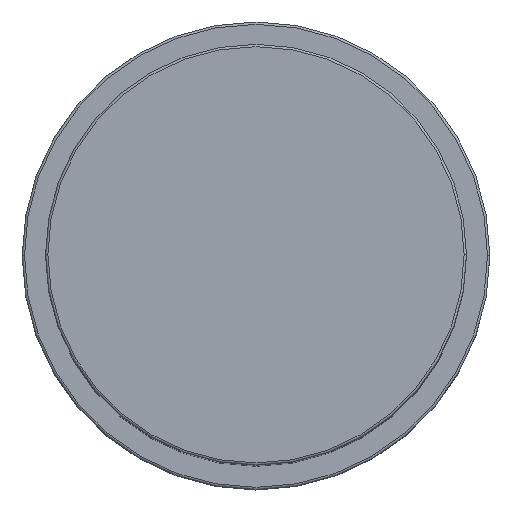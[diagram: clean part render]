
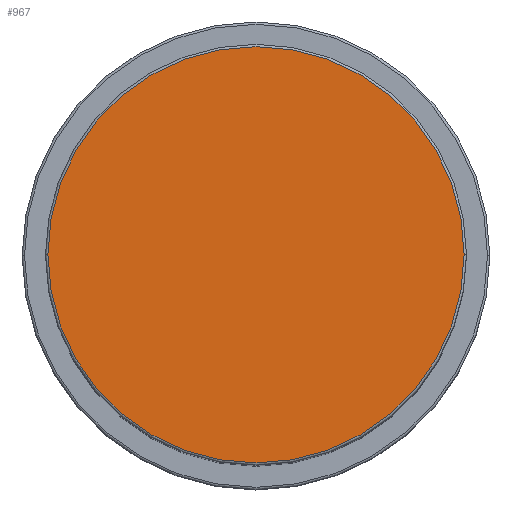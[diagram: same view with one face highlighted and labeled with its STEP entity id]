
A CAD part, top view. The second image highlights one B-rep face of the part: STEP entity #967.
In plain terms, the highlighted planar face has unit normal (0, 0, 1).
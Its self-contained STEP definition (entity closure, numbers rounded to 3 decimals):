
#213 = AXIS2_PLACEMENT_3D ( 'NONE', #311, #3705, #5861 ) ;
#226 = AXIS2_PLACEMENT_3D ( 'NONE', #1456, #922, #5874 ) ;
#281 = ORIENTED_EDGE ( 'NONE', *, *, #4059, .T. ) ;
#311 = CARTESIAN_POINT ( 'NONE',  ( 0., 0., 149. ) ) ;
#920 = EDGE_CURVE ( 'NONE', #4000, #2782, #1012, .T. ) ;
#922 = DIRECTION ( 'NONE',  ( 0., 0., 1. ) ) ;
#967 = ADVANCED_FACE ( 'NONE', ( #1343 ), #5296, .T. ) ;
#1012 = CIRCLE ( 'NONE', #2768, 44.5 ) ;
#1343 = FACE_OUTER_BOUND ( 'NONE', #2394, .T. ) ;
#1456 = CARTESIAN_POINT ( 'NONE',  ( 0., 0., 149. ) ) ;
#2394 = EDGE_LOOP ( 'NONE', ( #281, #5022 ) ) ;
#2595 = CARTESIAN_POINT ( 'NONE',  ( -44.5, 0., 149. ) ) ;
#2768 = AXIS2_PLACEMENT_3D ( 'NONE', #5751, #6336, #3000 ) ;
#2782 = VERTEX_POINT ( 'NONE', #3092 ) ;
#3000 = DIRECTION ( 'NONE',  ( 1., 0., 0. ) ) ;
#3092 = CARTESIAN_POINT ( 'NONE',  ( 44.5, 0., 149. ) ) ;
#3705 = DIRECTION ( 'NONE',  ( 0., 0., 1. ) ) ;
#4000 = VERTEX_POINT ( 'NONE', #2595 ) ;
#4059 = EDGE_CURVE ( 'NONE', #2782, #4000, #4512, .T. ) ;
#4512 = CIRCLE ( 'NONE', #226, 44.5 ) ;
#5022 = ORIENTED_EDGE ( 'NONE', *, *, #920, .T. ) ;
#5296 = PLANE ( 'NONE',  #213 ) ;
#5751 = CARTESIAN_POINT ( 'NONE',  ( 0., 0., 149. ) ) ;
#5861 = DIRECTION ( 'NONE',  ( 1., 0., 0. ) ) ;
#5874 = DIRECTION ( 'NONE',  ( 1., 0., 0. ) ) ;
#6336 = DIRECTION ( 'NONE',  ( 0., 0., 1. ) ) ;
